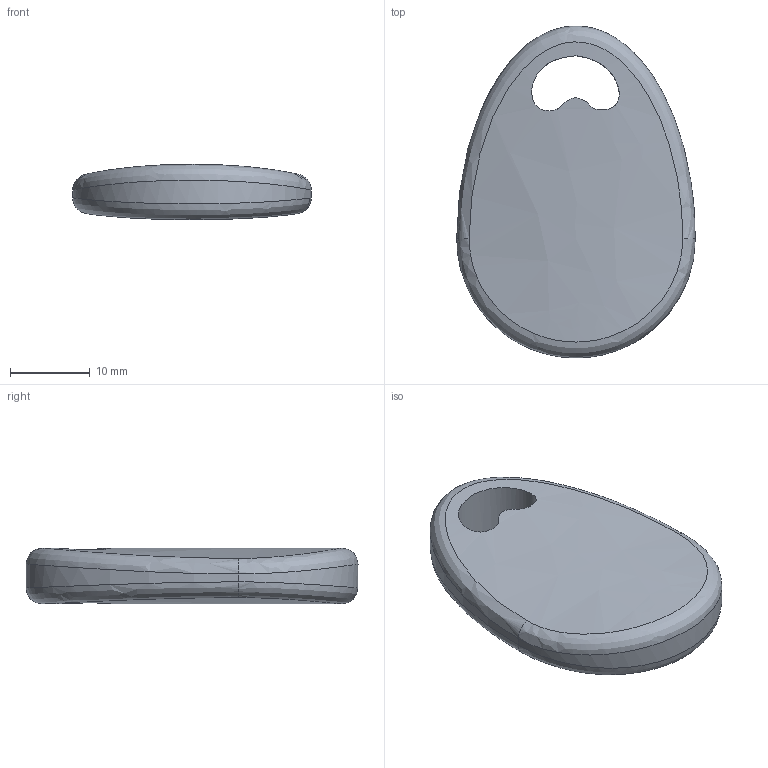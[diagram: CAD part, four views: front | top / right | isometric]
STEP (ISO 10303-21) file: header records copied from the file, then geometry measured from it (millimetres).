
FILE_DESCRIPTION(/* description */ ('Alibre Inc.'),/* implementation_level */ '2;1');
FILE_NAME(/* name */ 'export0',/* time_stamp */ '2013-07-16T12:39:41-06:00',/* author */ (''),/* organization */ (''),/* preprocessor_version */ 'ST-DEVELOPER v14',/* originating_system */ 'Alibre',/* authorisation */ '');
FILE_SCHEMA (('ALIBRE_SCHEMA','CONFIG_CONTROL_DESIGN'));
Length unit declared in the file: centimetre
Products named in the file (1): ID_1
Bounding box: 30 x 41.74 x 6.98 mm (x, y, z)
Volume: 5696.6 mm3; surface area: 2549.7 mm2
Topology: 1 solids, 1 shells, 9 faces, 18 edges, 11 vertices
Faces by surface type: bspline 5, extrusion 3, cylinder 1
Entity records: 2504 total; most frequent: CARTESIAN_POINT 1041, CONSTRAINTPAIRUV 180, REFERENCEDEPENDENTUV 139, DIRECTION 114, REFERENCEPOINTUV 91, VECTOR 76, ENTITYHEADERPROPERTIES 53, REFERENCEAXISUV 40
